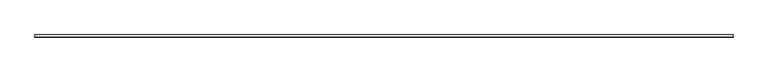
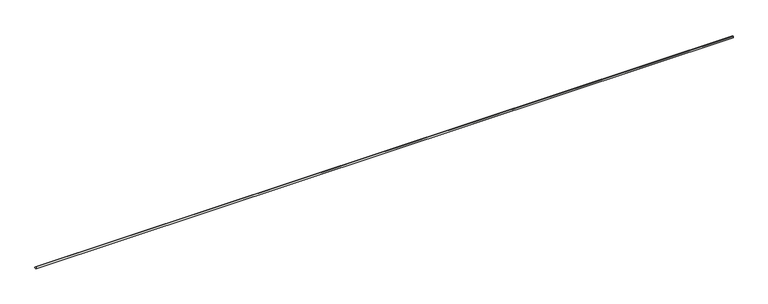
"""IFC4 building model written with IfcOpenShell, lengths in millimetres: slab geometry, ROSA GRES_188 : Pieza 188_Tao_Beige_Liso."""

from ifc_helpers import new_model, si_unit, point, frame, frame_2d, origin, place, context, project, spatial, polyline, circle_curve, trimmed, segment, composite_curve, outline, extrude, source, transform, mapped, element, save


def slab_6e807474(model_context):
    return source(origin(), model_context, "Body", "SweptSolid", [
        extrude(outline(composite_curve([segment(polyline([(0.0, 8.7114978), (0.0, 40.0), (9.9734114, 40.0)]), True, "CONTINUOUS"), segment(trimmed(circle_curve(frame_2d((39.9955547, 39.9955547)), 30.0221435), [point((9.9734114, 40.0))], [point((40.0, 9.9734114))], True, "CARTESIAN"), True, "CONTINUOUS"), segment(polyline([(40.0, 9.9734114), (40.0, 0.0), (8.7114978, 0.0), (0.0, 8.7114978)]), True, "CONTINUOUS")], self_intersect=False)), frame((0.0, 0.0, 0.0), z_axis=(1.0, 0.0, 0.0), x_axis=(0.0, 1.0, 0.0)), (0.0, 0.0, 1.0), 13082.5),
    ])


if __name__ == "__main__":
    model = new_model("IFC4")
    model_context = context("Model", 3, world=origin())
    ifc_project = project(units=[si_unit("LENGTHUNIT", "METRE", prefix="MILLI")], contexts=[model_context])
    site = spatial("IfcSite", under=ifc_project)
    building = spatial("IfcBuilding", under=site)
    placement = place(None, origin())
    slab_shape = slab_6e807474(model_context)
    element("IfcSlab", 1, ObjectType="ROSA GRES_188 : Pieza 188_Tao_Beige_Liso", at=placement, inside=building, context=model_context, shape_type="MappedRepresentation", body=[
        mapped(slab_shape, transform((0.0, 0.0, 0.0), x_axis=(1.0, 0.0, 0.0), y_axis=(0.0, 1.0, 0.0), z_axis=(0.0, 0.0, 1.0))),
    ])
    save(model, "model.ifc")
